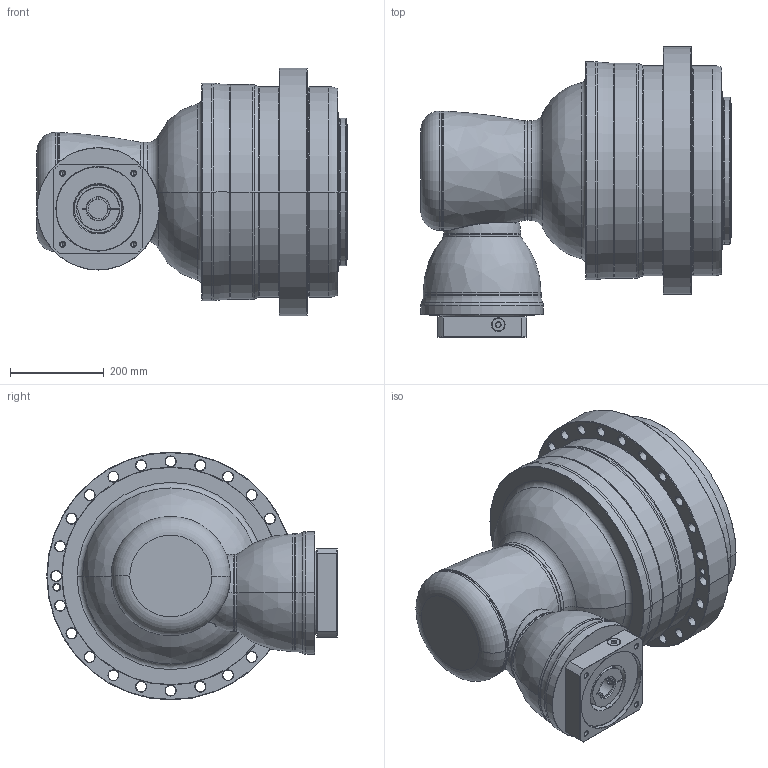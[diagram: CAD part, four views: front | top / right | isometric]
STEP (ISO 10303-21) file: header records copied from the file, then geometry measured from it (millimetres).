
FILE_DESCRIPTION((''),'2;1');
FILE_NAME('APK450_3ST_42-P0409A00201_ASM','2018-11-21T',('D00080'),(''),'PRO/ENGINEER BY PARAMETRIC TECHNOLOGY CORPORATION, 2015240','PRO/ENGINEER BY PARAMETRIC TECHNOLOGY CORPORATION, 2015240','');
FILE_SCHEMA(('CONFIG_CONTROL_DESIGN'));
Length unit declared in the file: millimetre
Products named in the file (13): P1008700002; P1315700001; P1007701001; P1318701201; P1821200001; P0276201003; P0357201103; P1222200001; P0503A00012; P0912702001; P0409A00201; 21711422019; APK450_3ST_42-P0409A00201_ASM
Assembly tree (12 placements, depth 2):
  APK450_3ST_42-P0409A00201_ASM
    P1008700002
    P1315700001
    P1007701001
    P1318701201
    P1821200001
    P0276201003
    P0357201103
    P1222200001
    P0503A00012
    P0912702001
    P0409A00201
    21711422019
Bounding box: 663.5 x 621 x 530 mm (x, y, z)
Volume: 86874006.8 mm3; surface area: 3162655.6 mm2
Topology: 13 solids, 36 shells, 767 faces, 1731 edges, 1034 vertices
Faces by surface type: cylinder 296, cone 230, plane 123, torus 90, bspline 26, sphere 2
Entity records: 28921 total; most frequent: CARTESIAN_POINT 11075, DIRECTION 4118, ORIENTED_EDGE 3296, AXIS2_PLACEMENT_3D 1762, EDGE_CURVE 1695, VERTEX_POINT 1034, CIRCLE 984, EDGE_LOOP 915
